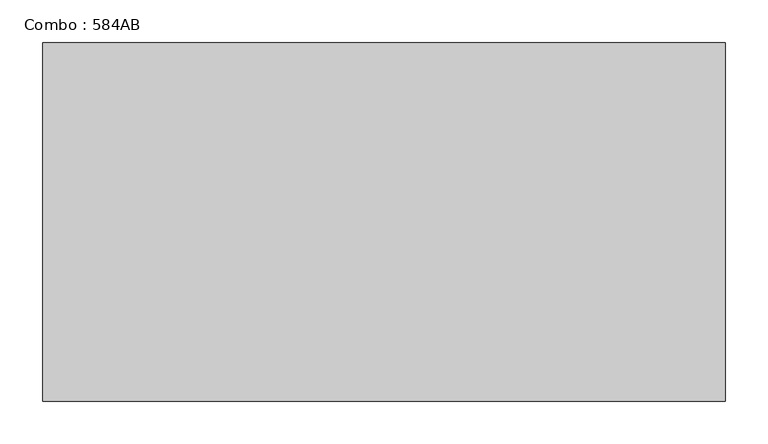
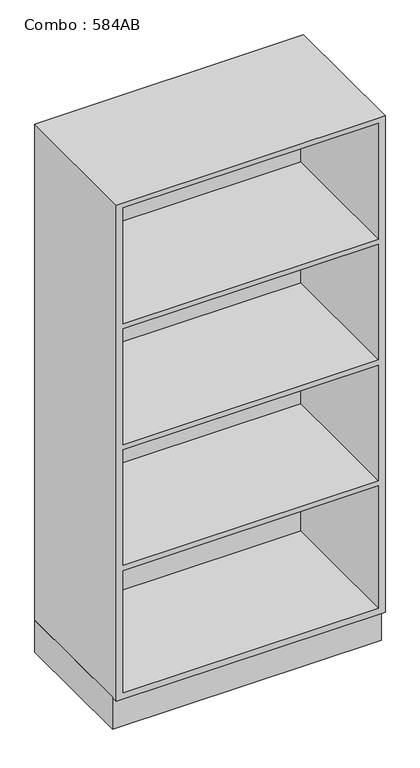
"""IFC4 building model written with IfcOpenShell, lengths in millimetres: furniture geometry, Combo : 584AB."""

from ifc_helpers import new_model, si_unit, origin, origin_with_axes, place, context, project, spatial, polyline, outline, extrude, faceted_brep, source, transform, mapped, element, save


def combo_584ab_45974ca2(model_context):
    return source(origin(), model_context, "Body", "SolidModel", [
        extrude(outline(polyline([(-400.0, -400.0), (-400.0, 0.0), (400.0, 0.0), (400.0, -400.0), (-400.0, -400.0)])), origin_with_axes(), (0.0, 0.0, 1.0), 100.0),
        faceted_brep([(400.0, 0.0, 1660.0), (-400.0, 0.0, 1660.0), (-400.0, -420.0, 1660.0), (400.0, -420.0, 1660.0), (-400.0, 0.0, 100.0), (400.0, 0.0, 100.0), (400.0, -420.0, 100.0), (-400.0, -420.0, 100.0), (380.0, -420.0, 504.0), (380.0, -420.0, 120.0), (-380.0, -420.0, 120.0), (-380.0, -420.0, 504.0), (380.0, -420.0, 884.0), (380.0, -420.0, 520.0), (-380.0, -420.0, 520.0), (-380.0, -420.0, 884.0), (380.0, -420.0, 1264.0), (380.0, -420.0, 900.0), (-380.0, -420.0, 900.0), (-380.0, -420.0, 1264.0), (380.0, -420.0, 1644.0), (380.0, -420.0, 1280.0), (-380.0, -420.0, 1280.0), (-380.0, -420.0, 1644.0), (380.0, -20.0, 120.0), (380.0, -20.0, 504.0), (-380.0, -20.0, 504.0), (-380.0, -20.0, 120.0), (380.0, -20.0, 520.0), (380.0, -20.0, 884.0), (-380.0, -20.0, 884.0), (-380.0, -20.0, 520.0), (380.0, -20.0, 900.0), (380.0, -20.0, 1264.0), (-380.0, -20.0, 1264.0), (-380.0, -20.0, 900.0), (380.0, -20.0, 1280.0), (380.0, -20.0, 1644.0), (-380.0, -20.0, 1644.0), (-380.0, -20.0, 1280.0)], [[[0, 1, 2, 3]], [[4, 5, 6, 7]], [[1, 0, 5, 4]], [[2, 1, 4, 7]], [[3, 2, 7, 6], [8, 9, 10, 11], [12, 13, 14, 15], [16, 17, 18, 19], [20, 21, 22, 23]], [[0, 3, 6, 5]], [[24, 25, 26, 27]], [[25, 24, 9, 8]], [[26, 25, 8, 11]], [[27, 26, 11, 10]], [[24, 27, 10, 9]], [[28, 29, 30, 31]], [[29, 28, 13, 12]], [[30, 29, 12, 15]], [[31, 30, 15, 14]], [[28, 31, 14, 13]], [[32, 33, 34, 35]], [[33, 32, 17, 16]], [[34, 33, 16, 19]], [[35, 34, 19, 18]], [[32, 35, 18, 17]], [[36, 37, 38, 39]], [[37, 36, 21, 20]], [[38, 37, 20, 23]], [[39, 38, 23, 22]], [[36, 39, 22, 21]]]),
    ])


if __name__ == "__main__":
    model = new_model("IFC4")
    model_context = context("Model", 3, world=origin())
    ifc_project = project(units=[si_unit("LENGTHUNIT", "METRE", prefix="MILLI")], contexts=[model_context])
    site = spatial("IfcSite", under=ifc_project)
    building = spatial("IfcBuilding", under=site)
    placement = place(None, origin())
    combo_584ab_shape = combo_584ab_45974ca2(model_context)
    element("IfcFurniture", 1, ObjectType="Combo : 584AB", at=placement, inside=building, context=model_context, shape_type="MappedRepresentation", body=[
        mapped(combo_584ab_shape, transform((0.0, 0.0, 0.0), x_axis=(1.0, 0.0, 0.0), y_axis=(0.0, 1.0, 0.0), z_axis=(0.0, 0.0, 1.0))),
    ])
    save(model, "model.ifc")
